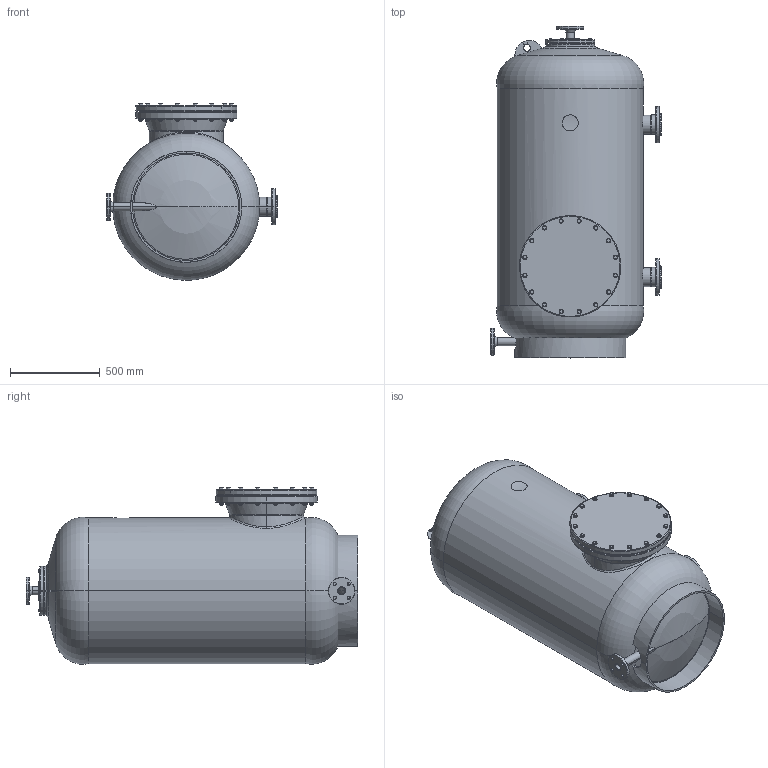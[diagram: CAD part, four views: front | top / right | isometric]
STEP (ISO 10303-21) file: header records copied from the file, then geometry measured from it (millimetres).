
FILE_DESCRIPTION (( 'STEP AP214' ), '1' );
FILE_NAME ('adriatic80c_sb1000.STEP', '2020-11-04T09:08:33', ( '' ), ( '' ), 'SwSTEP 2.0', 'SolidWorks 2019', '' );
FILE_SCHEMA (( 'AUTOMOTIVE_DESIGN' ));
Length unit declared in the file: millimetre
Products named in the file (1): adriatic80c_sb1000
Bounding box: 948.94 x 1850.85 x 984.51 mm (x, y, z)
Surface area: 11927939.2 mm2 (no closed solid volume)
Topology: 0 solids, 106 shells, 1638 faces, 3637 edges, 2225 vertices
Faces by surface type: cone 542, cylinder 516, plane 481, torus 76, sphere 19, bspline 4
Entity records: 89095 total; most frequent: CARTESIAN_POINT 34830, DIRECTION 7244, ORIENTED_EDGE 7164, EDGE_CURVE 3598, AXIS2_PLACEMENT_3D 3126, VERTEX_POINT 2210, EDGE_LOOP 1960, UNCERTAINTY_MEASURE_WITH_UNIT 1731
